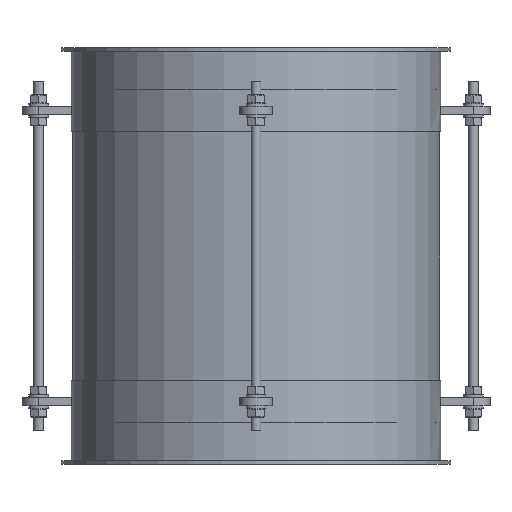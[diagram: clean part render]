
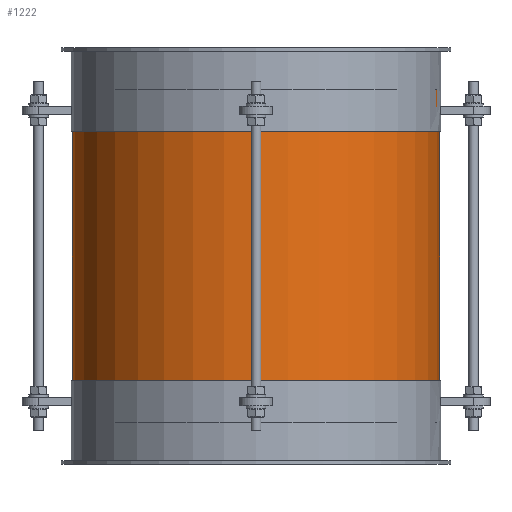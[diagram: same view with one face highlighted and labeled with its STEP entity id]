
A CAD part, front view. The second image highlights one B-rep face of the part: STEP entity #1222.
In plain terms, the highlighted cylindrical face has radius 110.25 mm (diameter 220.5 mm), a full revolution.
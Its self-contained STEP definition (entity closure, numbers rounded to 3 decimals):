
#1195=CARTESIAN_POINT('',(0.0,0.0,0.0));
#1196=DIRECTION('',(0.0,0.0,1.0));
#1197=DIRECTION('',(-1.0,0.0,0.0));
#1198=AXIS2_PLACEMENT_3D('',#1195,#1196,#1197);
#1199=CYLINDRICAL_SURFACE('',#1198,110.25);
#1200=CARTESIAN_POINT('',(110.25,0.,200.0));
#1201=VERTEX_POINT('',#1200);
#1202=CARTESIAN_POINT('',(0.0,0.0,200.0));
#1203=DIRECTION('',(0.0,0.0,-1.0));
#1204=DIRECTION('',(-1.0,0.0,0.0));
#1205=AXIS2_PLACEMENT_3D('',#1202,#1203,#1204);
#1206=CIRCLE('',#1205,110.25);
#1207=EDGE_CURVE('',#1201,#1201,#1206,.T.);
#1208=ORIENTED_EDGE('',*,*,#1207,.T.);
#1209=EDGE_LOOP('',(#1208));
#1210=FACE_OUTER_BOUND('',#1209,.T.);
#1211=CARTESIAN_POINT('',(110.25,0.,0.0));
#1212=VERTEX_POINT('',#1211);
#1213=CARTESIAN_POINT('',(0.0,0.0,0.0));
#1214=DIRECTION('',(0.0,0.0,-1.0));
#1215=DIRECTION('',(-1.0,0.0,0.0));
#1216=AXIS2_PLACEMENT_3D('',#1213,#1214,#1215);
#1217=CIRCLE('',#1216,110.25);
#1218=EDGE_CURVE('',#1212,#1212,#1217,.T.);
#1219=ORIENTED_EDGE('',*,*,#1218,.F.);
#1220=EDGE_LOOP('',(#1219));
#1221=FACE_BOUND('',#1220,.T.);
#1222=ADVANCED_FACE('',(#1210,#1221),#1199,.T.);
